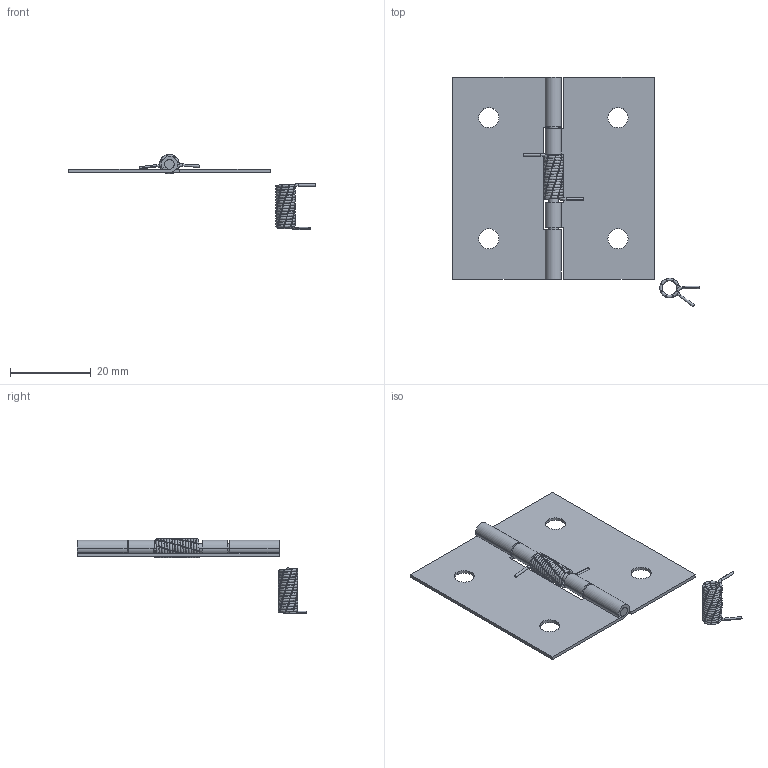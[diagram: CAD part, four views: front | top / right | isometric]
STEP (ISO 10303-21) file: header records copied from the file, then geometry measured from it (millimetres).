
FILE_DESCRIPTION((''),'2;1');
FILE_NAME('6108._.stp','2019-08-30T09:09:34',(''),(''),'Mechanical Desktop 2006','Mechanical Desktop 2006',', , ');
FILE_SCHEMA(('CONFIG_CONTROL_DESIGN'));
Length unit declared in the file: millimetre
Products named in the file (6): 6108; TEIL1; TEIL2; TEIL3; DREHFEDERN - 0.600000 X 4.800000 X 16.000000; ~DREHFEDERN - 0.600000 X 4.800000 X 16.000000
Assembly tree (5 placements, depth 2):
  6108
    TEIL1
    TEIL2
    TEIL3
    DREHFEDERN - 0.600000 X 4.800000 X 16.000000
    ~DREHFEDERN - 0.600000 X 4.800000 X 16.000000
Bounding box: 61.19 x 56.8 x 18.59 mm (x, y, z)
Volume: 2414.4 mm3; surface area: 6742.9 mm2
Topology: 5 solids, 5 shells, 845 faces, 1987 edges, 1152 vertices
Faces by surface type: cylinder 556, bspline 259, plane 30
Entity records: 30463 total; most frequent: CARTESIAN_POINT 10948, DIRECTION 4534, ORIENTED_EDGE 3974, EDGE_CURVE 1987, AXIS2_PLACEMENT_3D 1959, CIRCLE 1367, VERTEX_POINT 1152, EDGE_LOOP 853
